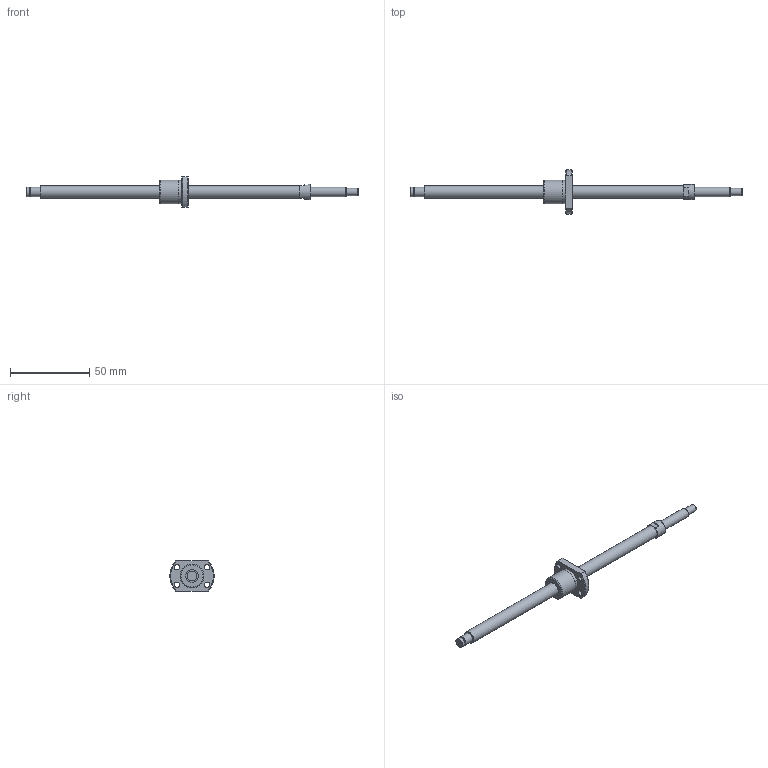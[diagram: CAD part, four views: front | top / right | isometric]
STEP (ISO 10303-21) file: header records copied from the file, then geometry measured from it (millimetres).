
FILE_DESCRIPTION(/* description */ ('STEP AP214'),/* implementation_level */ '2;1');
FILE_NAME(/* name */ 'PSRT0802K-160R210C5B0X(B75.5)',/* time_stamp */ '2026-08-06T16:13:16+02:00',/* author */ ('License CC BY-ND 4.0'),/* organization */ ('CADENAS'),/* preprocessor_version */ 'ST-DEVELOPER v20',/* originating_system */ 'PARTsolutions',/* authorisation */ ' ');
FILE_SCHEMA (('AUTOMOTIVE_DESIGN {1 0 10303 214 3 1 1}'));
Length unit declared in the file: millimetre
Products named in the file (3): PSRT0802K-160R210C5B0X(B75.5); PSRT0802KB210_shaft; PSR0802K_nut
Assembly tree (2 placements, depth 2):
  PSRT0802K-160R210C5B0X(B75.5)
    PSRT0802KB210_shaft
    PSR0802K_nut
Bounding box: 210 x 27.9 x 19 mm (x, y, z)
Volume: 13071.5 mm3; surface area: 7557.6 mm2
Topology: 2 solids, 2 shells, 44 faces, 91 edges, 58 vertices
Faces by surface type: plane 19, cylinder 16, cone 8, torus 1
Full cylindrical faces by diameter (mm): 3.4 x4, 4.5 x1, 5.7 x1, 6 x3, 8 x2, 9.5 x1, 14.6 x1, 15 x1
Entity records: 1175 total; most frequent: DIRECTION 202, CARTESIAN_POINT 199, ORIENTED_EDGE 142, AXIS2_PLACEMENT_3D 92, EDGE_LOOP 80, FACE_BOUND 80, EDGE_CURVE 71, VERTEX_POINT 57
